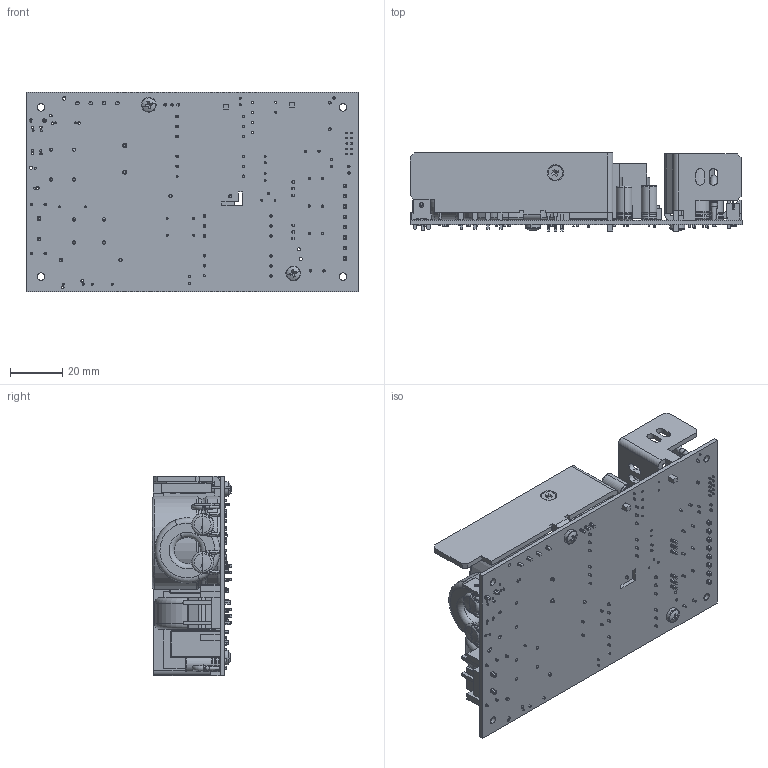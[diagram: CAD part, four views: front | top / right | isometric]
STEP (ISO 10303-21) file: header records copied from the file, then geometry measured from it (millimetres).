
FILE_DESCRIPTION (( 'STEP AP214' ), '1' );
FILE_NAME ('CLC175US12-48-M-MA.STEP', '2010-06-17T22:14:50', ( 'ALL' ), ( 'XP Power' ), 'SwSTEP 2.0', 'SolidWorks 2010', '' );
FILE_SCHEMA (( 'AUTOMOTIVE_DESIGN' ));
Length unit declared in the file: inch
Products named in the file (25): Capacitor Film_12x5mm_10 LS; Capacitor Elec_06mm D_13mm H; Capacitor Disc_0.300 D; CAP-MLC-01; Capacitor Disc_0.550 D_0.400" C; NUT-HEX_M3.0; Capacitor Elec_10mm D_25mm; SCREW-PFH(90)_M3.0x06; SCREW-PPH_M3.0X06; XFR-04; TO-220_3P-1; CAP FILM_26X10X19MM_22LS; CLC175US12-48-M-MA; CON MLX  .156 3P; CON Quick-Fit .250 -01; 1000627303; CON MLX  .156 08P; Bridge Rectifier_GBU6K_01_Lead trimed; IND-TOR_25 ODX12mm; CON JST_S10B-PHDSS-B_Vertical; 10006969B0; 1000627203; POT_TOP-ADJ_01; CON MLX  .100 2P; Cap-Elec-35mm D_30mm H
Assembly tree (49 placements, depth 2):
  CLC175US12-48-M-MA
    Capacitor Disc_0.300 D  x6
    TO-220_3P-1  x3
    Capacitor Film_12x5mm_10 LS  x3
    CON MLX  .156 08P
    Capacitor Elec_06mm D_13mm H  x4
    Capacitor Elec_10mm D_25mm  x5
    CON MLX  .100 2P
    IND-TOR_25 ODX12mm  x2
    SCREW-PFH(90)_M3.0x06  x3
    10006969B0
    CAP-MLC-01  x2
    CAP FILM_26X10X19MM_22LS  x2
    CON JST_S10B-PHDSS-B_Vertical
    NUT-HEX_M3.0  x3
    Cap-Elec-35mm D_30mm H
    XFR-04  x2
    CON Quick-Fit .250 -01
    POT_TOP-ADJ_01
    SCREW-PPH_M3.0X06  x2
    CON MLX  .156 3P
    1000627303
    Bridge Rectifier_GBU6K_01_Lead trimed
    Capacitor Disc_0.550 D_0.400" C
    1000627203
Bounding box: 127 x 30.51 x 76.2 mm (x, y, z)
Volume: 115208.2 mm3; surface area: 69942.3 mm2
Topology: 49 solids, 58 shells, 2216 faces, 5270 edges, 3333 vertices
Faces by surface type: plane 1173, cylinder 723, torus 154, cone 126, bspline 28, sphere 12
Entity records: 58662 total; most frequent: CARTESIAN_POINT 10321, DIRECTION 7702, ORIENTED_EDGE 7168, EDGE_CURVE 3584, AXIS2_PLACEMENT_3D 2683, VECTOR 2336, LINE 2336, VERTEX_POINT 2318
